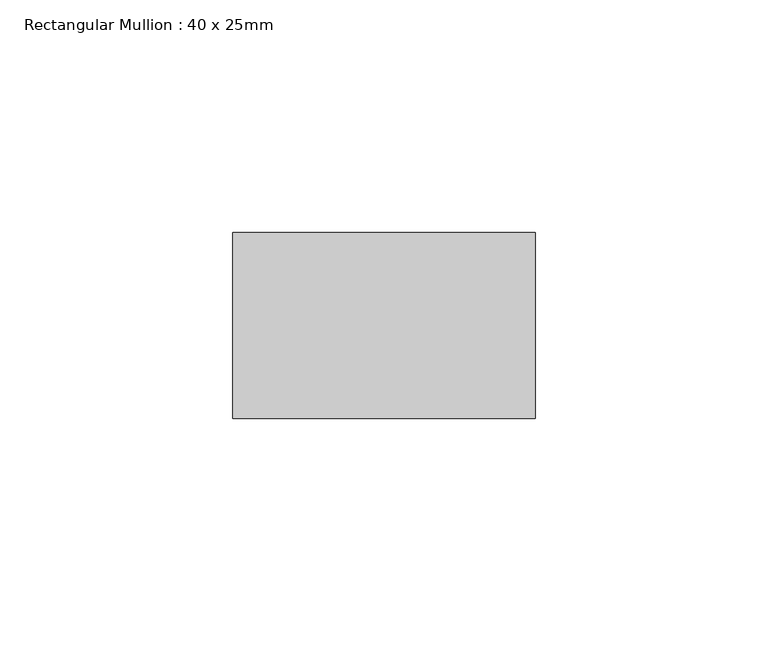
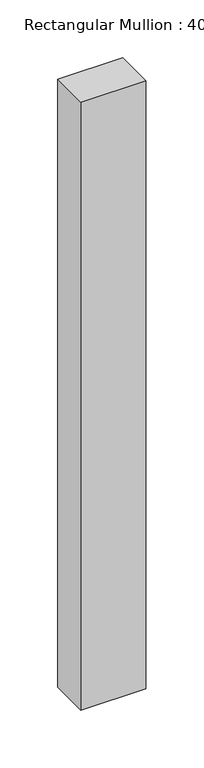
"""IFC4 building model written with IfcOpenShell, lengths in millimetres: member geometry, Rectangular Mullion : 40 x 25mm."""

import ifcopenshell
import ifcopenshell.guid

model = None  # the IFC model being written
_history = None  # IfcOwnerHistory: only IFC2X3 demands one
_inside = {}  # id of a spatial element -> (the spatial element, [elements in it])
_under = {}  # id of a project, library or spatial element -> (it, [spatial elements below it])
_declared = {}  # id of a project -> (the project, [libraries it declares])
_typed = {}  # id of a type object -> (the type object, [elements of that type])
_made_of = {}  # id of a material, layer set ... -> (it, [elements and type objects made of it])


def new_model(schema):
    """Start an empty IFC model of exactly this schema.

    Asked for "IFC4X3", IfcOpenShell would pick the latest addendum, in which some entities
    have other attributes; the version numbers below select the first issue.
    IFC2X3 requires an IfcOwnerHistory on every rooted entity: one is made here for all.
    """
    global model, _history
    if schema == "IFC4X3":
        model = ifcopenshell.file(schema_version=(4, 3, 0, 0))
    else:
        model = ifcopenshell.file(schema=schema)
    _inside.clear()
    _under.clear()
    _declared.clear()
    _typed.clear()
    _made_of.clear()
    _history = None
    if model.schema == "IFC2X3":
        org = make("IfcOrganization", Name="unknown")
        user = make(
            "IfcPersonAndOrganization",
            ThePerson=make("IfcPerson", FamilyName="unknown"),
            TheOrganization=org,
        )
        app = make(
            "IfcApplication",
            ApplicationDeveloper=org,
            Version="unknown",
            ApplicationFullName="unknown",
            ApplicationIdentifier="unknown",
        )
        _history = make(
            "IfcOwnerHistory",
            OwningUser=user,
            OwningApplication=app,
            ChangeAction="ADDED",
            CreationDate=0,
        )
    return model


def make(cls, **values):
    """One entity of the class cls with the attributes given. An attribute that is None is left unset."""
    return model.create_entity(
        cls, **{name: value for name, value in values.items() if value is not None}
    )


def rooted(cls, **values):
    """An entity with a GlobalId (a new one), such as an element, a storey or a relation."""
    return make(cls, GlobalId=ifcopenshell.guid.new(), OwnerHistory=_history, **values)


def si_unit(unit_type, name, prefix=None):
    """IfcSIUnit, for example si_unit("LENGTHUNIT", "METRE", prefix="MILLI")."""
    return make("IfcSIUnit", UnitType=unit_type, Prefix=prefix, Name=name)


def assignment(units):
    """IfcUnitAssignment: the units of a project."""
    return None if units is None else make("IfcUnitAssignment", Units=units)


def point(xyz):
    """IfcCartesianPoint."""
    return None if xyz is None else make("IfcCartesianPoint", Coordinates=xyz)


def direction(xyz):
    """IfcDirection."""
    return None if xyz is None else make("IfcDirection", DirectionRatios=xyz)


def frame(location, z_axis=None, x_axis=None):
    """IfcAxis2Placement3D, a coordinate frame: its origin and axes. An axis left out is left unset."""
    return make(
        "IfcAxis2Placement3D",
        Location=point(location),
        Axis=direction(z_axis),
        RefDirection=direction(x_axis),
    )


def origin():
    """The frame at (0, 0, 0) with its axes left unset."""
    return frame((0.0, 0.0, 0.0))


def place(relative_to, where):
    """IfcLocalPlacement: puts the frame where relative to a parent placement (None: the world)."""
    return make(
        "IfcLocalPlacement", PlacementRelTo=relative_to, RelativePlacement=where
    )


def context(
    kind, dimensions, precision=None, world=None, true_north=None, identifier=None
):
    """IfcGeometricRepresentationContext, for example the 3D "Model" context."""
    return make(
        "IfcGeometricRepresentationContext",
        ContextIdentifier=identifier,
        ContextType=kind,
        CoordinateSpaceDimension=dimensions,
        Precision=precision,
        WorldCoordinateSystem=world,
        TrueNorth=true_north,
    )


def project(units=None, contexts=None):
    """IfcProject with its units and contexts."""
    return rooted(
        "IfcProject",
        Name="project",
        RepresentationContexts=contexts,
        UnitsInContext=assignment(units),
    )


def spatial(cls, under=None, at=None, **own):
    """A site, building, storey or space (cls), placed at a placement, below another one or the project."""
    s = rooted(cls, ObjectPlacement=at, **own)
    if under is not None:
        _under.setdefault(under.id(), (under, []))[1].append(s)
    return s


def polyline(points):
    """IfcPolyline through the points."""
    return make("IfcPolyline", Points=[point(p) for p in points])


def outline(outer, holes=None, kind="AREA"):
    """IfcArbitraryClosedProfileDef: a profile drawn as a closed curve; with holes, ...WithVoids."""
    if holes is None:
        return make("IfcArbitraryClosedProfileDef", ProfileType=kind, OuterCurve=outer)
    return make(
        "IfcArbitraryProfileDefWithVoids",
        ProfileType=kind,
        OuterCurve=outer,
        InnerCurves=holes,
    )


def extrude(swept, where, along, depth):
    """IfcExtrudedAreaSolid: the profile swept, set in the frame where, extruded along a direction by depth."""
    return make(
        "IfcExtrudedAreaSolid",
        SweptArea=swept,
        Position=where,
        ExtrudedDirection=direction(along),
        Depth=depth,
    )


def shape(context_of_items, identifier, shape_type, items):
    """IfcShapeRepresentation: the items that make up one representation, for example the "Body"."""
    return make(
        "IfcShapeRepresentation",
        ContextOfItems=context_of_items,
        RepresentationIdentifier=identifier,
        RepresentationType=shape_type,
        Items=items,
    )


def source(mapping_origin, context_of_items, identifier, shape_type, items):
    """IfcRepresentationMap: a shape defined once, which mapped items show again and again."""
    return make(
        "IfcRepresentationMap",
        MappingOrigin=mapping_origin,
        MappedRepresentation=shape(context_of_items, identifier, shape_type, items),
    )


def transform(
    local_origin,
    x_axis=None,
    y_axis=None,
    z_axis=None,
    scale=None,
    scale2=None,
    scale3=None,
    uniform=True,
):
    """IfcCartesianTransformationOperator3D, or its non-uniform kind. x_axis, y_axis, z_axis: its Axis1, 2, 3."""
    if uniform:
        return make(
            "IfcCartesianTransformationOperator3D",
            Axis1=direction(x_axis),
            Axis2=direction(y_axis),
            LocalOrigin=point(local_origin),
            Scale=scale,
            Axis3=direction(z_axis),
        )
    return make(
        "IfcCartesianTransformationOperator3DnonUniform",
        Axis1=direction(x_axis),
        Axis2=direction(y_axis),
        LocalOrigin=point(local_origin),
        Scale=scale,
        Axis3=direction(z_axis),
        Scale2=scale2,
        Scale3=scale3,
    )


def mapped(mapping_source, mapping_target):
    """IfcMappedItem: shows the shape of a source again, moved by a transform."""
    return make(
        "IfcMappedItem", MappingSource=mapping_source, MappingTarget=mapping_target
    )


def made_of(thing, what):
    """Note that an element or type object is made of a material, layer set ...; save() writes the relation."""
    if what is not None:
        _made_of.setdefault(what.id(), (what, []))[1].append(thing)
    return thing


def element(
    cls,
    number,
    at=None,
    inside=None,
    cuts=None,
    type_object=None,
    material=None,
    context=None,
    identifier="Body",
    shape_type=None,
    held_by="IfcProductDefinitionShape",
    body=None,
    shapes=None,
    **own,
):
    """One element of the class cls, such as IfcWall. Its Tag is "e" and its number.

    at: its placement. inside: the storey or other place that contains it. cuts: it is an
    opening in that element (IfcRelVoidsElement). A single representation is given by context,
    identifier, shape_type and body (its items); several are given by shapes. held_by: the class
    of the entity that holds the representations. save() writes the other relations.
    """
    e = rooted(cls, Tag="e%d" % number, ObjectPlacement=at, **own)
    if body is not None:
        shapes = [shape(context, identifier, shape_type, body)]
    if shapes is not None:
        e.Representation = make(held_by, Representations=shapes)
    if inside is not None:
        _inside.setdefault(inside.id(), (inside, []))[1].append(e)
    if cuts is not None:
        rooted(
            "IfcRelVoidsElement", RelatingBuildingElement=cuts, RelatedOpeningElement=e
        )
    if type_object is not None:
        _typed.setdefault(type_object.id(), (type_object, []))[1].append(e)
    return made_of(e, material)


def aggregate(whole, parts):
    """IfcRelAggregates: a whole, such as a stair, and the parts it consists of."""
    return rooted("IfcRelAggregates", RelatingObject=whole, RelatedObjects=parts)


def save(model, path):
    """Write the relations noted so far, then the file.

    IfcRelAggregates (storeys below a building ...), IfcRelContainedInSpatialStructure (elements
    in a storey), IfcRelDefinesByType, IfcRelAssociatesMaterial and IfcRelDeclares: one each for
    every whole, place, type object, material and project.
    """
    for whole, parts in _under.values():
        aggregate(whole, parts)
    for where, things in _inside.values():
        rooted(
            "IfcRelContainedInSpatialStructure",
            RelatedElements=things,
            RelatingStructure=where,
        )
    for kind, things in _typed.values():
        rooted("IfcRelDefinesByType", RelatedObjects=things, RelatingType=kind)
    for what, things in _made_of.values():
        rooted("IfcRelAssociatesMaterial", RelatedObjects=things, RelatingMaterial=what)
    for by, libraries in _declared.values():
        rooted("IfcRelDeclares", RelatingContext=by, RelatedDefinitions=libraries)
    model.write(path)


def rectangular_mullion_40_x_25mm_bfaf5fe4(model_context):
    return source(origin(), model_context, "Body", "SweptSolid", [
        extrude(outline(polyline([(40.0, -20.0), (40.0, -60.0), (-25.0, -60.0), (-25.0, -20.0), (40.0, -20.0)])), frame((0.0, 0.0, -642.448019), z_axis=(0.0, 0.0, 1.0), x_axis=(1.0, 0.0, 0.0)), (0.0, 0.0, 1.0), 642.448019),
    ])


if __name__ == "__main__":
    model = new_model("IFC4")
    model_context = context("Model", 3, world=origin())
    ifc_project = project(units=[si_unit("LENGTHUNIT", "METRE", prefix="MILLI")], contexts=[model_context])
    site = spatial("IfcSite", under=ifc_project)
    building = spatial("IfcBuilding", under=site)
    placement = place(None, origin())
    rectangular_mullion_40_x_25mm_shape = rectangular_mullion_40_x_25mm_bfaf5fe4(model_context)
    element("IfcMember", 1, ObjectType="Rectangular Mullion : 40 x 25mm", at=placement, inside=building, context=model_context, shape_type="MappedRepresentation", body=[
        mapped(rectangular_mullion_40_x_25mm_shape, transform((0.0, 0.0, 0.0), x_axis=(1.0, 0.0, 0.0), y_axis=(0.0, 1.0, 0.0), z_axis=(0.0, 0.0, 1.0))),
    ])
    save(model, "model.ifc")
